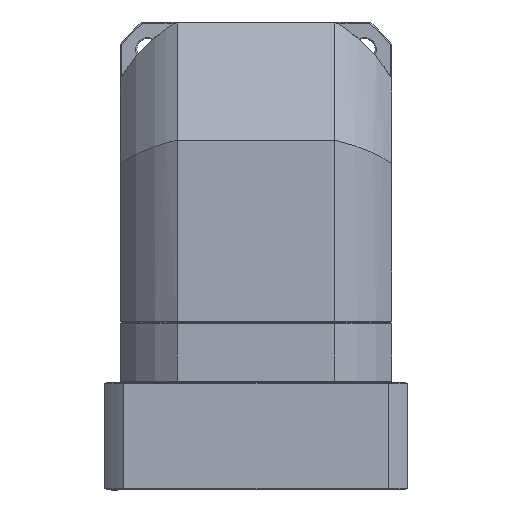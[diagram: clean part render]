
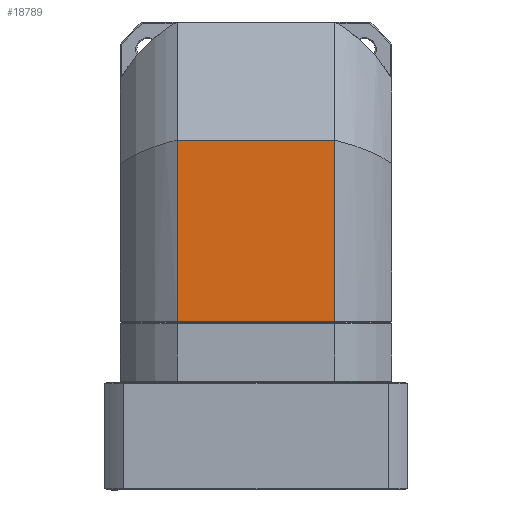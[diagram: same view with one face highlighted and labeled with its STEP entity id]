
A CAD part, front view. The second image highlights one B-rep face of the part: STEP entity #18789.
In plain terms, the highlighted planar face has unit normal (0, 1, 0).
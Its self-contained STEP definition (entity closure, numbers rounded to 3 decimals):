
#702 = ORIENTED_EDGE ( 'NONE', *, *, #84913, .F. ) ;
#2911 = VECTOR ( 'NONE', #13656, 1000. ) ;
#8787 = VECTOR ( 'NONE', #43945, 1000. ) ;
#13656 = DIRECTION ( 'NONE',  ( 0., 0., -1. ) ) ;
#14235 = DIRECTION ( 'NONE',  ( 0., -1., 0. ) ) ;
#18373 = VERTEX_POINT ( 'NONE', #48397 ) ;
#18789 = ADVANCED_FACE ( 'NONE', ( #75069 ), #69907, .F. ) ;
#21158 = DIRECTION ( 'NONE',  ( 1., 0., 0. ) ) ;
#25211 = LINE ( 'NONE', #85784, #8787 ) ;
#31977 = VERTEX_POINT ( 'NONE', #48740 ) ;
#42028 = VERTEX_POINT ( 'NONE', #56000 ) ;
#43945 = DIRECTION ( 'NONE',  ( 0., 0., -1. ) ) ;
#48397 = CARTESIAN_POINT ( 'NONE',  ( -33.407, -261.111, 7.5 ) ) ;
#48446 = ORIENTED_EDGE ( 'NONE', *, *, #65144, .F. ) ;
#48568 = DIRECTION ( 'NONE',  ( 1., 0., 0. ) ) ;
#48740 = CARTESIAN_POINT ( 'NONE',  ( -33.407, -261.111, -69.2 ) ) ;
#51763 = ORIENTED_EDGE ( 'NONE', *, *, #74654, .T. ) ;
#55134 = LINE ( 'NONE', #90409, #63868 ) ;
#56000 = CARTESIAN_POINT ( 'NONE',  ( 33.407, -261.111, 7.5 ) ) ;
#56162 = CARTESIAN_POINT ( 'NONE',  ( -33.407, -261.111, -69.2 ) ) ;
#56596 = LINE ( 'NONE', #62597, #2911 ) ;
#60027 = EDGE_CURVE ( 'NONE', #18373, #42028, #55134, .T. ) ;
#60467 = VERTEX_POINT ( 'NONE', #62777 ) ;
#62597 = CARTESIAN_POINT ( 'NONE',  ( 33.407, -261.111, -30.62 ) ) ;
#62777 = CARTESIAN_POINT ( 'NONE',  ( 33.407, -261.111, -69.2 ) ) ;
#63157 = DIRECTION ( 'NONE',  ( 1., 0., 0. ) ) ;
#63221 = LINE ( 'NONE', #70122, #79619 ) ;
#63868 = VECTOR ( 'NONE', #48568, 1000. ) ;
#65144 = EDGE_CURVE ( 'NONE', #18373, #31977, #25211, .T. ) ;
#69524 = AXIS2_PLACEMENT_3D ( 'NONE', #56162, #14235, #63157 ) ;
#69907 = PLANE ( 'NONE',  #69524 ) ;
#70122 = CARTESIAN_POINT ( 'NONE',  ( 0., -261.111, -69.2 ) ) ;
#74654 = EDGE_CURVE ( 'NONE', #42028, #60467, #56596, .T. ) ;
#75069 = FACE_OUTER_BOUND ( 'NONE', #84340, .T. ) ;
#78801 = ORIENTED_EDGE ( 'NONE', *, *, #60027, .T. ) ;
#79619 = VECTOR ( 'NONE', #21158, 1000. ) ;
#84340 = EDGE_LOOP ( 'NONE', ( #51763, #702, #48446, #78801 ) ) ;
#84913 = EDGE_CURVE ( 'NONE', #31977, #60467, #63221, .T. ) ;
#85784 = CARTESIAN_POINT ( 'NONE',  ( -33.407, -261.111, -30.85 ) ) ;
#90409 = CARTESIAN_POINT ( 'NONE',  ( 0., -261.111, 7.5 ) ) ;
